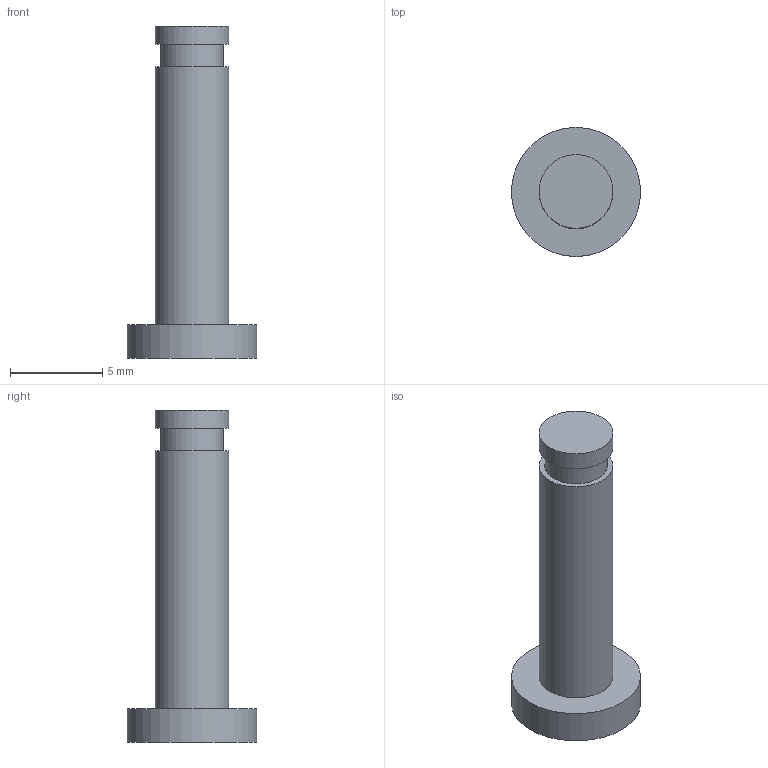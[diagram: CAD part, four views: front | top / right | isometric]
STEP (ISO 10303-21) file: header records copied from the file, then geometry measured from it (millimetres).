
FILE_DESCRIPTION(('Open CASCADE Model'),'2;1');
FILE_NAME('SCZ-PIN4-L18','2026-11-15T22:39:11',('Author'),( 'Open CASCADE'),'Open CASCADE STEP processor 8.0','build123d', 'Unknown');
FILE_SCHEMA(('AUTOMOTIVE_DESIGN { 1 0 10303 214 1 1 1 1 }'));
Length unit declared in the file: millimetre
Products named in the file (1): SCZ-PIN4-L18
Bounding box: 7 x 7 x 18 mm (x, y, z)
Volume: 268.7 mm3; surface area: 324.8 mm2
Topology: 1 solids, 1 shells, 9 faces, 12 edges, 8 vertices
Faces by surface type: plane 5, cylinder 4
Full cylindrical faces by diameter (mm): 3.4 x1, 4 x2, 7 x1
Entity records: 360 total; most frequent: DIRECTION 64, CARTESIAN_POINT 54, ORIENTED_EDGE 24, PCURVE 24, DEFINITIONAL_REPRESENTATION 24, LINE 20, VECTOR 20, AXIS2_PLACEMENT_3D 18
